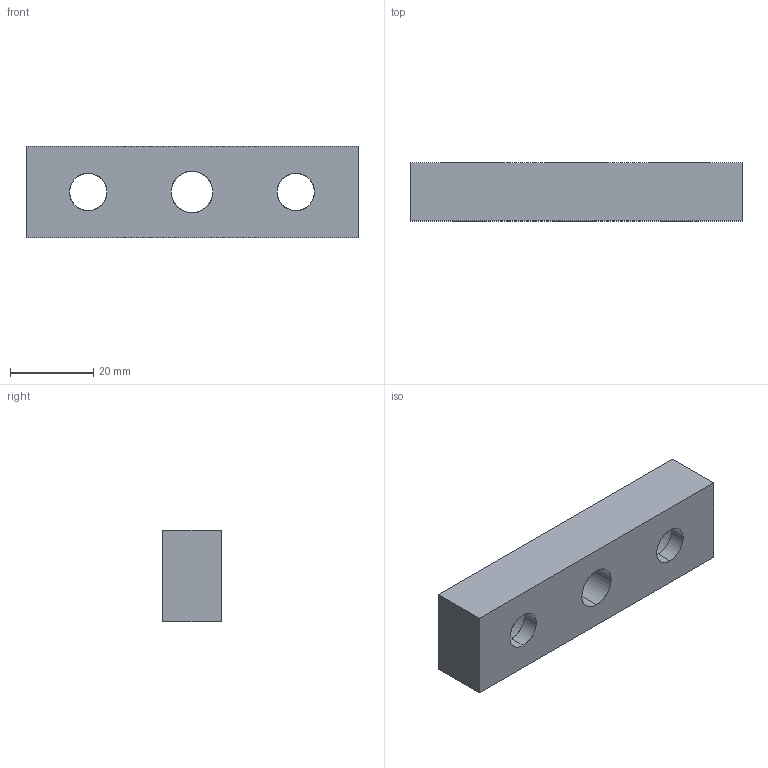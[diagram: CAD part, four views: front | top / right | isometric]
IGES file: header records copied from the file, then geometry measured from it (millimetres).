
Start section: START RECORD GO HERE.
Global section: file name: 761-014080.igs; native system: DASSAULT SYSTEMES CATIA V5 R20 - www.3ds.com; preprocessor: CATIA Version 5 Release 20 ; author: Utente; organization: NB04-ASUS; date: 20200411.201540; units: millimetre
Bounding box: 80 x 14 x 22 mm (x, y, z)
Surface area: 7667.2 mm2 (no closed solid volume)
Topology: 0 solids, 0 shells, 21 faces, 96 edges, 96 vertices
Faces by surface type: revolution 12, extrusion 9
